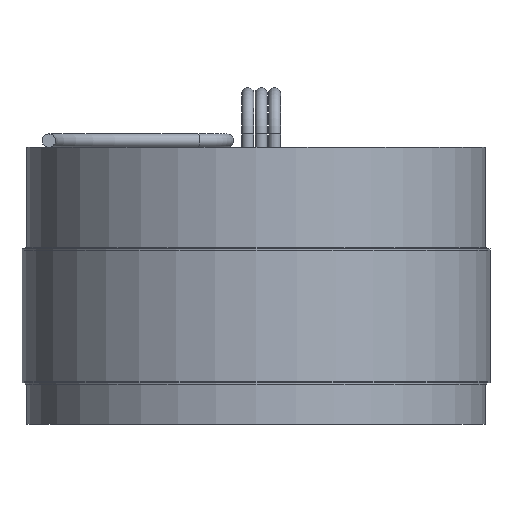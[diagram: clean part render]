
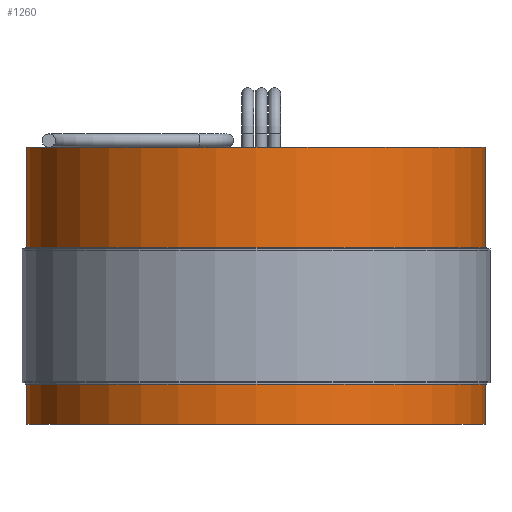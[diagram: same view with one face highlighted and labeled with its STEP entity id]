
A CAD part, front view. The second image highlights one B-rep face of the part: STEP entity #1260.
In plain terms, the highlighted cylindrical face has radius 43.561 mm (diameter 87.122 mm), a full revolution.
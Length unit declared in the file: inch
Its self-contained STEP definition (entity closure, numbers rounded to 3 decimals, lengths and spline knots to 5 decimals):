
#26 = AXIS2_PLACEMENT_3D ( 'NONE', #249, #1255, #1156 ) ;
#130 = CARTESIAN_POINT ( 'NONE',  ( 0., 0., -0.81 ) ) ;
#142 = CIRCLE ( 'NONE', #180, 1.715 ) ;
#180 = AXIS2_PLACEMENT_3D ( 'NONE', #1276, #1160, #826 ) ;
#237 = AXIS2_PLACEMENT_3D ( 'NONE', #130, #379, #494 ) ;
#249 = CARTESIAN_POINT ( 'NONE',  ( 0., 0., 1.26 ) ) ;
#250 = CYLINDRICAL_SURFACE ( 'NONE', #237, 1.715 ) ;
#379 = DIRECTION ( 'NONE',  ( 0., 0., 1. ) ) ;
#407 = EDGE_LOOP ( 'NONE', ( #1191 ) ) ;
#465 = VERTEX_POINT ( 'NONE', #965 ) ;
#494 = DIRECTION ( 'NONE',  ( 1., 0., 0. ) ) ;
#549 = FACE_OUTER_BOUND ( 'NONE', #407, .T. ) ;
#557 = ORIENTED_EDGE ( 'NONE', *, *, #687, .T. ) ;
#572 = EDGE_LOOP ( 'NONE', ( #557 ) ) ;
#575 = EDGE_CURVE ( 'NONE', #465, #465, #889, .T. ) ;
#687 = EDGE_CURVE ( 'NONE', #709, #709, #142, .T. ) ;
#709 = VERTEX_POINT ( 'NONE', #1405 ) ;
#826 = DIRECTION ( 'NONE',  ( 1., 0., 0. ) ) ;
#871 = FACE_OUTER_BOUND ( 'NONE', #572, .T. ) ;
#889 = CIRCLE ( 'NONE', #26, 1.715 ) ;
#965 = CARTESIAN_POINT ( 'NONE',  ( 1.715, 0., 1.26 ) ) ;
#1156 = DIRECTION ( 'NONE',  ( 1., 0., 0. ) ) ;
#1160 = DIRECTION ( 'NONE',  ( 0., 0., 1. ) ) ;
#1191 = ORIENTED_EDGE ( 'NONE', *, *, #575, .F. ) ;
#1255 = DIRECTION ( 'NONE',  ( 0., 0., 1. ) ) ;
#1260 = ADVANCED_FACE ( 'NONE', ( #871, #549 ), #250, .T. ) ;
#1276 = CARTESIAN_POINT ( 'NONE',  ( 0., 0., -0.81 ) ) ;
#1405 = CARTESIAN_POINT ( 'NONE',  ( 1.715, 0., -0.81 ) ) ;
